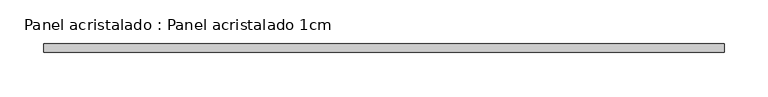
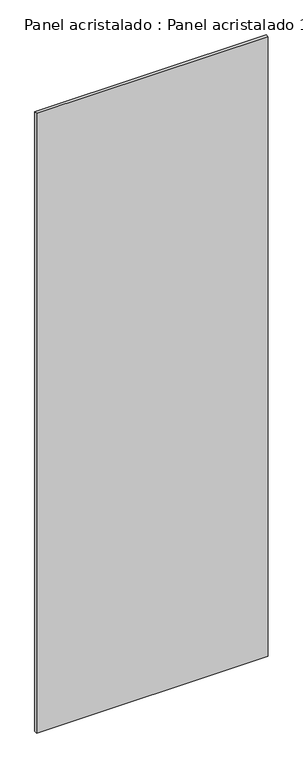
"""IFC4 building model written with IfcOpenShell, lengths in millimetres: plate geometry, Panel acristalado : Panel acristalado 1cm."""

from ifc_helpers import new_model, si_unit, origin, origin_with_axes, place, context, project, spatial, polyline, outline, extrude, source, transform, mapped, element, save


def panel_acristalado_panel_acristalado_1cm_0280032a(model_context):
    return source(origin(), model_context, "Body", "SweptSolid", [
        extrude(outline(polyline([(388.8692967, 20.0), (-388.8692967, 20.0), (-388.8692967, 30.0), (388.8692967, 30.0), (388.8692967, 20.0)])), origin_with_axes(), (0.0, 0.0, 1.0), 2200.0),
    ])


if __name__ == "__main__":
    model = new_model("IFC4")
    model_context = context("Model", 3, world=origin())
    ifc_project = project(units=[si_unit("LENGTHUNIT", "METRE", prefix="MILLI")], contexts=[model_context])
    site = spatial("IfcSite", under=ifc_project)
    building = spatial("IfcBuilding", under=site)
    placement = place(None, origin())
    panel_acristalado_panel_acristalado_1cm_shape = panel_acristalado_panel_acristalado_1cm_0280032a(model_context)
    element("IfcPlate", 1, ObjectType="Panel acristalado : Panel acristalado 1cm", at=placement, inside=building, context=model_context, shape_type="MappedRepresentation", body=[
        mapped(panel_acristalado_panel_acristalado_1cm_shape, transform((0.0, 0.0, 0.0), x_axis=(1.0, 0.0, 0.0), y_axis=(0.0, 1.0, 0.0), z_axis=(0.0, 0.0, 1.0))),
    ])
    save(model, "model.ifc")
